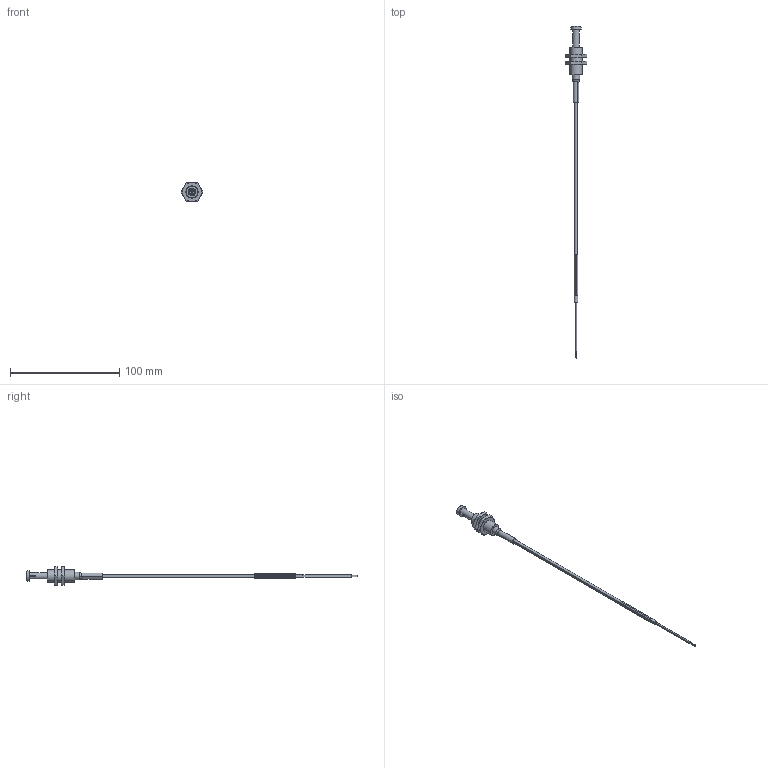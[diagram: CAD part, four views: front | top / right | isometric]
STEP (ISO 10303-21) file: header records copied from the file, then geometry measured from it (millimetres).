
FILE_DESCRIPTION(/* description */ (''),/* implementation_level */ '2;1');
FILE_NAME(/* name */ 'C:\Users\Justin\Documents\CAD Drawings\The Sensor Connection\Temperature Sensors\Thermocouples\RBTC\RBTC2-072-U-STF-K-N_iam\RBTC2-072-G-STF-K-N.stp',/* time_stamp */ '2021-12-14T12:20:48-05:00',/* author */ ('Justin'),/* organization */ (''),/* preprocessor_version */ 'ST-DEVELOPER v18.1',/* originating_system */ 'Autodesk Inventor 2022',/* authorisation */ '');
FILE_SCHEMA (('AUTOMOTIVE_DESIGN { 1 0 10303 214 3 1 1 }'));
Length unit declared in the file: inch
Products named in the file (4): RBTC2-072-G-STF-K-N (sw); RBTC2-072-G-STF-K-N_TC; Cartridge; Nut
Assembly tree (4 placements, depth 2):
  RBTC2-072-G-STF-K-N (sw)
    RBTC2-072-G-STF-K-N_TC
    Cartridge
    Nut  x2
Bounding box: 20.12 x 304.55 x 17.42 mm (x, y, z)
Volume: 8723.4 mm3; surface area: 10883.7 mm2
Topology: 13 solids, 13 shells, 107 faces, 211 edges, 136 vertices
Faces by surface type: plane 57, cylinder 32, cone 7, torus 7, bspline 4
Full cylindrical faces by diameter (mm): 0.762 x6, 1.016 x2, 4.762 x1, 4.839 x1, 6.35 x2, 6.795 x1, 11.112 x3
Entity records: 3059 total; most frequent: CARTESIAN_POINT 778, DIRECTION 427, ORIENTED_EDGE 372, EDGE_CURVE 186, AXIS2_PLACEMENT_3D 176, VERTEX_POINT 120, EDGE_LOOP 106, FACE_OUTER_BOUND 96
